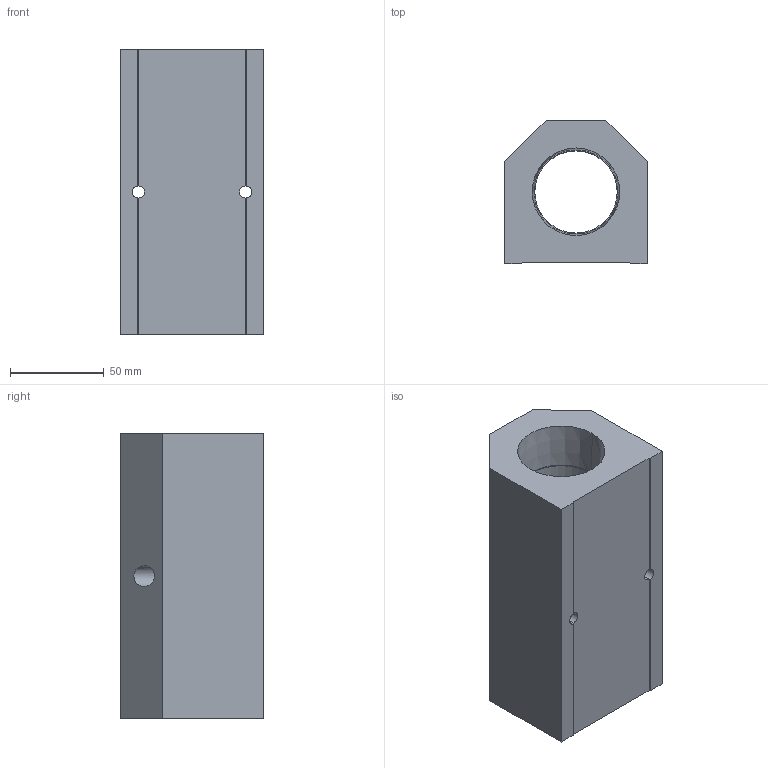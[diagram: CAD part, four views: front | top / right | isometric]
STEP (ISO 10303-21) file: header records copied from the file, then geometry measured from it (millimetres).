
FILE_DESCRIPTION (( 'STEP AP214' ), '1' );
FILE_NAME ('ALM2C-N6N24-152R.step', '2022-02-07T07:57:56', ( '' ), ( '' ), 'SwSTEP 2.0', 'SolidWorks 2020', '' );
FILE_SCHEMA (( 'AUTOMOTIVE_DESIGN' ));
Length unit declared in the file: millimetre
Products named in the file (1): ALM2C-N6N24-152R
Bounding box: 76.2 x 76.2 x 152 mm (x, y, z)
Volume: 553507.2 mm3; surface area: 74654.4 mm2
Topology: 1 solids, 1 shells, 263 faces, 695 edges, 462 vertices
Faces by surface type: plane 192, bspline 53, cylinder 10, cone 8
Entity records: 14331 total; most frequent: CARTESIAN_POINT 5586, ORIENTED_EDGE 1390, DIRECTION 1027, EDGE_CURVE 695, VECTOR 549, LINE 549, VERTEX_POINT 462, EDGE_LOOP 301
